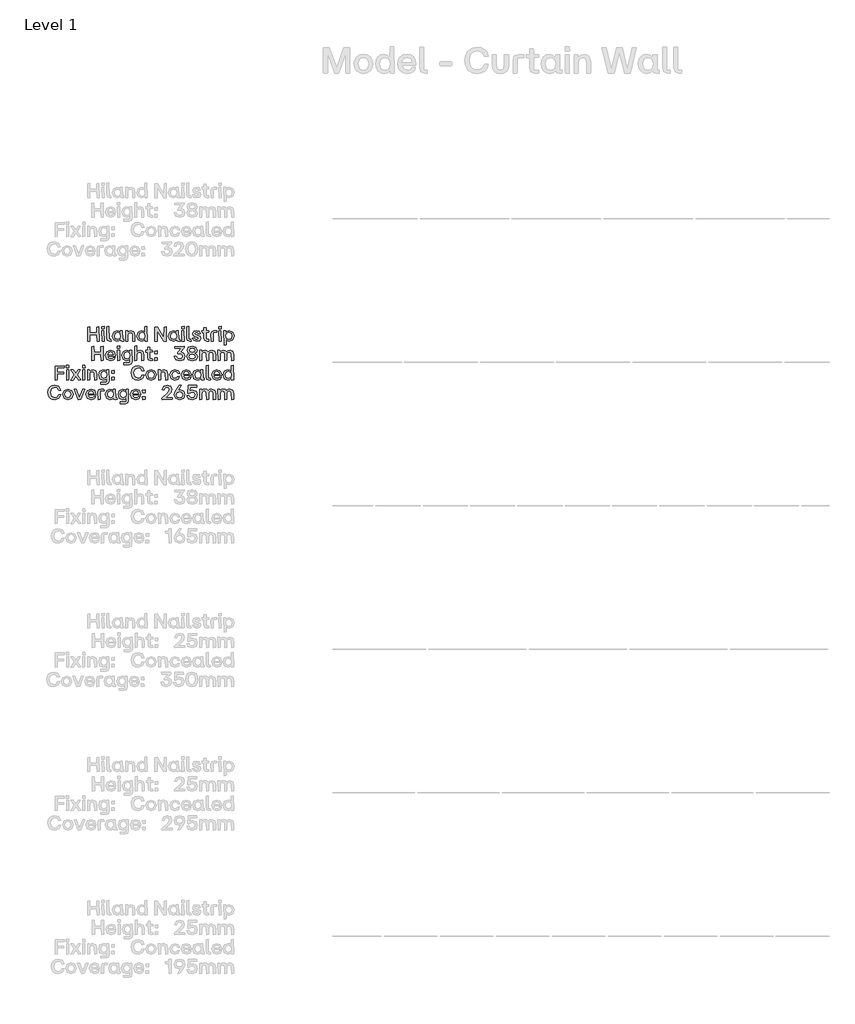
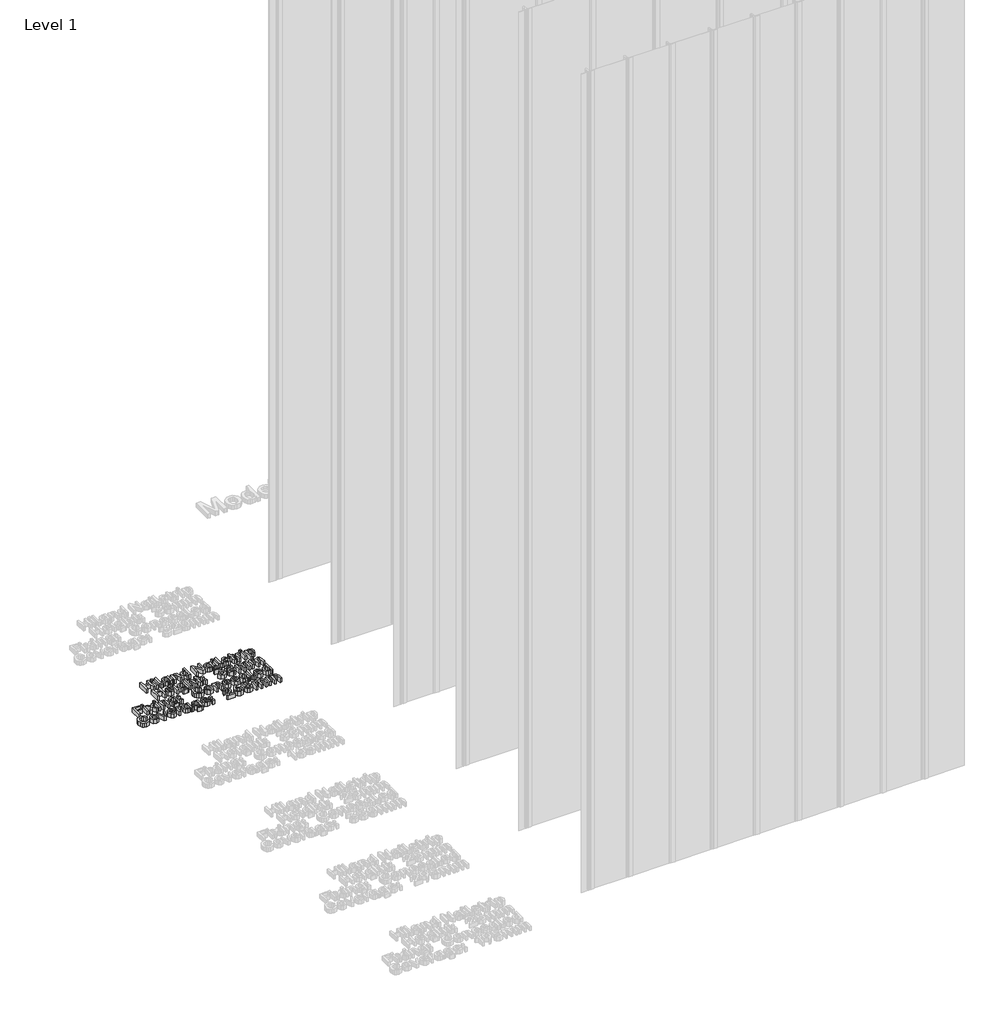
# One storey, part 14 of 64: 1 proxy.
"""IFC4 building model written with IfcOpenShell, lengths in millimetres."""

from ifc_helpers import new_model, si_unit, origin, origin_with_axes, place, context, project, spatial, polyline, outline, extrude, element, save

model = new_model("IFC4")

# Units and contexts
model_context = context("Model", 3, world=origin())
ifc_project = project(units=[si_unit("LENGTHUNIT", "METRE", prefix="MILLI")], contexts=[model_context])

# Site, building, storey
site = spatial("IfcSite", under=ifc_project)
building = spatial("IfcBuilding", under=site)
storey = spatial("IfcBuildingStorey", under=building, Name="Level 1", Elevation=0.0)

# Proxy
placement = place(None, origin())
element("IfcBuildingElementProxy", 1, Name="50mm", ObjectType="50mm", at=placement, inside=storey, context=model_context, shape_type="SweptSolid", body=[
    extrude(outline(polyline([(-779.9316481, -2433.5188866), (-780.6289799, -2411.5808277), (-804.4777279, -2411.5808277), (-804.4777279, -2432.8215548), (-811.9810183, -2433.5188866), (-812.7062434, -2384.2454206), (-805.2168997, -2383.5201955), (-804.4777279, -2404.6075096), (-780.6289799, -2404.6075096), (-780.6289799, -2384.2454206), (-773.1396362, -2383.5201955), (-772.4423044, -2432.8215548), (-779.9316481, -2433.5188866)])), origin_with_axes(), (0.0, 0.0, 1.0), 20.0),
    extrude(outline(polyline([(-762.3449397, -2433.5188866), (-763.0701648, -2397.8154977), (-755.8597538, -2397.1181659), (-755.162422, -2432.8215548), (-762.3449397, -2433.5188866)])), origin_with_axes(), (0.0, 0.0, 1.0), 20.0),
    extrude(outline(polyline([(-763.2793643, -2390.4516737), (-763.6280302, -2382.4044646), (-755.2321552, -2381.6652929), (-754.4929835, -2390.1030078), (-763.2793643, -2390.4516737)])), origin_with_axes(), (0.0, 0.0, 1.0), 20.0),
    extrude(outline(polyline([(-735.7626509, -2433.5188866), (-743.4611942, -2430.8690257), (-746.1110551, -2423.1565359), (-746.1110551, -2382.8228637), (-738.9006441, -2382.083692), (-738.2033123, -2427.2429003), (-731.5368201, -2427.2429003), (-730.8394883, -2432.8215548), (-735.7626509, -2433.5188866)])), origin_with_axes(), (0.0, 0.0, 1.0), 20.0),
    extrude(outline(polyline([(-710.6726522, -2433.9372857), (-722.4436133, -2428.8955767), (-726.8228571, -2415.3882594), (-722.4436133, -2401.7484491), (-710.6726522, -2396.6579269), (-704.0549733, -2398.2617901), (-699.0690509, -2402.6549805), (-698.7482782, -2397.8154977), (-691.5657605, -2397.1181659), (-690.8405354, -2427.2429003), (-686.8936374, -2427.2429003), (-686.1963056, -2432.8215548), (-692.1933592, -2433.5188866), (-696.848049, -2432.2113895), (-698.3996123, -2428.288898), (-703.7551206, -2432.3334225), (-710.6726522, -2433.9372857)]), holes=[polyline([(-718.7617013, -2415.3882594), (-716.0072406, -2424.2792401), (-708.4830304, -2427.521833), (-701.1192064, -2424.2931867), (-698.4693455, -2415.3882594), (-701.1401263, -2406.392679), (-708.4830304, -2403.1152195), (-716.0072406, -2406.392679), (-718.7617013, -2415.3882594)])]), origin_with_axes(), (0.0, 0.0, 1.0), 20.0),
    extrude(outline(polyline([(-679.3345605, -2433.5188866), (-680.0597856, -2397.8154977), (-673.1980405, -2397.1181659), (-672.5007087, -2402.6549805), (-667.3369666, -2398.1571903), (-660.7158011, -2396.6579269), (-651.1553819, -2400.8419178), (-647.8430558, -2413.0870644), (-647.8430558, -2432.8215548), (-655.0674134, -2433.5188866), (-655.7926384, -2413.0870644), (-657.7451675, -2405.7092939), (-663.9165541, -2403.3941522), (-670.1437272, -2405.7441604), (-672.1520428, -2413.0870644), (-672.1520428, -2432.8215548), (-679.3345605, -2433.5188866)])), origin_with_axes(), (0.0, 0.0, 1.0), 20.0),
    extrude(outline(polyline([(-624.9845189, -2433.9372857), (-636.7554799, -2428.8955767), (-641.1347237, -2415.3882594), (-636.7554799, -2401.7484491), (-624.9845189, -2396.6579269), (-618.36684, -2398.2617901), (-613.3809175, -2402.6549805), (-613.0601448, -2382.8228637), (-605.8776272, -2382.083692), (-605.1524021, -2432.8215548), (-612.0141471, -2433.5188866), (-612.7114789, -2428.0099653), (-618.0669873, -2432.3334225), (-624.9845189, -2433.9372857)]), holes=[polyline([(-633.0735679, -2415.3882594), (-630.3191073, -2424.2792401), (-622.794897, -2427.521833), (-615.431073, -2424.2931867), (-612.7812121, -2415.3882594), (-615.451993, -2406.392679), (-622.794897, -2403.1152195), (-630.3191073, -2406.392679), (-633.0735679, -2415.3882594)])]), origin_with_axes(), (0.0, 0.0, 1.0), 20.0),
    extrude(outline(polyline([(-578.1238209, -2433.5188866), (-578.849046, -2384.2454206), (-569.992932, -2383.5201955), (-546.7020494, -2420.7856077), (-546.4231166, -2384.2454206), (-539.2127057, -2383.5201955), (-538.5153739, -2432.8215548), (-547.329648, -2433.5188866), (-570.6205306, -2396.2395278), (-570.8994633, -2432.8215548), (-578.1238209, -2433.5188866)])), origin_with_axes(), (0.0, 0.0, 1.0), 20.0),
    extrude(outline(polyline([(-515.196598, -2433.9372857), (-526.967559, -2428.8955767), (-531.3468028, -2415.3882594), (-526.967559, -2401.7484491), (-515.196598, -2396.6579269), (-508.5789191, -2398.2617901), (-503.5929966, -2402.6549805), (-503.272224, -2397.8154977), (-496.0897063, -2397.1181659), (-495.3644812, -2427.2429003), (-491.4175831, -2427.2429003), (-490.7202513, -2432.8215548), (-496.7173049, -2433.5188866), (-501.3719948, -2432.2113895), (-502.923558, -2428.288898), (-508.2790664, -2432.3334225), (-515.196598, -2433.9372857)]), holes=[polyline([(-523.285647, -2415.3882594), (-520.5311864, -2424.2792401), (-513.0069761, -2427.521833), (-505.6431521, -2424.2931867), (-502.9932912, -2415.3882594), (-505.6640721, -2406.392679), (-513.0069761, -2403.1152195), (-520.5311864, -2406.392679), (-523.285647, -2415.3882594)])]), origin_with_axes(), (0.0, 0.0, 1.0), 20.0),
    extrude(outline(polyline([(-484.7929309, -2390.4516737), (-485.1415968, -2382.4044646), (-476.7457217, -2381.6652929), (-476.00655, -2390.1030078), (-484.7929309, -2390.4516737)])), origin_with_axes(), (0.0, 0.0, 1.0), 20.0),
    extrude(outline(polyline([(-483.8585062, -2433.5188866), (-484.5837313, -2397.8154977), (-477.3733204, -2397.1181659), (-476.6759885, -2432.8215548), (-483.8585062, -2433.5188866)])), origin_with_axes(), (0.0, 0.0, 1.0), 20.0),
    extrude(outline(polyline([(-457.2762175, -2433.5188866), (-464.9747607, -2430.8690257), (-467.6246216, -2423.1565359), (-467.6246216, -2382.8228637), (-460.4142106, -2382.083692), (-459.7168788, -2427.2429003), (-453.0503867, -2427.2429003), (-452.3530549, -2432.8215548), (-457.2762175, -2433.5188866)])), origin_with_axes(), (0.0, 0.0, 1.0), 20.0),
    extrude(outline(polyline([(-432.716191, -2433.9372857), (-443.4481276, -2430.9875721), (-447.9180245, -2422.5289372), (-440.9725996, -2421.7339789), (-437.890393, -2426.5455685), (-432.716191, -2427.8007657), (-428.2532673, -2426.6153017), (-426.579671, -2423.4354686), (-427.7790817, -2420.5764081), (-431.8375529, -2419.0841181), (-436.9280751, -2418.1775867), (-444.6545116, -2414.6351411), (-447.1509595, -2407.5363032), (-443.4899675, -2399.6215871), (-433.6227223, -2396.6579269), (-423.9298101, -2399.4123876), (-419.7039793, -2407.2294772), (-426.6494042, -2408.0244355), (-429.3968915, -2403.8613645), (-433.6227223, -2402.7944469), (-437.8764464, -2403.8962311), (-439.3408432, -2407.0900108), (-438.2948455, -2409.8584181), (-434.4874138, -2411.3716282), (-429.0482256, -2412.3897326), (-421.0358831, -2415.8763917), (-418.7695547, -2423.0170695), (-422.3956801, -2431.1130919), (-432.716191, -2433.9372857)])), origin_with_axes(), (0.0, 0.0, 1.0), 20.0),
    extrude(outline(polyline([(-396.9570155, -2433.5188866), (-404.6695054, -2430.8690257), (-407.3193663, -2423.1565359), (-407.3193663, -2403.3941522), (-413.5256194, -2403.3941522), (-414.2508445, -2397.8154977), (-407.3193663, -2397.1181659), (-407.3193663, -2387.104481), (-400.0950087, -2386.3792559), (-399.3976769, -2397.1181659), (-390.611296, -2397.1181659), (-389.8860709, -2402.6549805), (-399.3976769, -2403.3941522), (-399.3976769, -2427.2429003), (-390.611296, -2427.2429003), (-389.8860709, -2432.8215548), (-396.9570155, -2433.5188866)])), origin_with_axes(), (0.0, 0.0, 1.0), 20.0),
    extrude(outline(polyline([(-382.480407, -2433.5188866), (-383.1777388, -2407.4386768), (-380.5278779, -2399.7471068), (-372.8293347, -2397.1181659), (-362.6761835, -2397.1181659), (-361.9788517, -2403.1152195), (-375.2699961, -2403.8125513), (-375.2699961, -2432.8215548), (-382.480407, -2433.5188866)])), origin_with_axes(), (0.0, 0.0, 1.0), 20.0),
    extrude(outline(polyline([(-354.4337214, -2433.5188866), (-355.1589465, -2397.8154977), (-347.9485356, -2397.1181659), (-347.2512038, -2432.8215548), (-354.4337214, -2433.5188866)])), origin_with_axes(), (0.0, 0.0, 1.0), 20.0),
    extrude(outline(polyline([(-355.3681461, -2390.4516737), (-355.716812, -2382.4044646), (-347.3209369, -2381.6652929), (-346.5817652, -2390.1030078), (-355.3681461, -2390.4516737)])), origin_with_axes(), (0.0, 0.0, 1.0), 20.0),
    extrude(outline(polyline([(-337.4746117, -2447.0750171), (-338.1998368, -2397.8154977), (-331.3380917, -2397.1181659), (-330.6407599, -2402.5852473), (-325.2852516, -2398.2617901), (-318.36772, -2396.6579269), (-306.596759, -2401.7135826), (-302.2175152, -2415.2487931), (-306.596759, -2428.8607101), (-318.36772, -2433.9372857), (-324.9853989, -2432.3334225), (-329.9713214, -2427.9402321), (-330.292094, -2446.3776853), (-337.4746117, -2447.0750171)]), holes=[polyline([(-330.5710268, -2415.2487931), (-327.9002459, -2424.2443735), (-320.5573419, -2427.521833), (-313.0331316, -2424.2443735), (-310.2786709, -2415.2487931), (-313.0331316, -2406.3578124), (-320.5573419, -2403.1152195), (-327.9211659, -2406.3368925), (-330.5710268, -2415.2487931)])]), origin_with_axes(), (0.0, 0.0, 1.0), 20.0),
    extrude(outline(polyline([(-765.6502925, -2501.3705811), (-766.3476243, -2479.4325222), (-790.1963724, -2479.4325222), (-790.1963724, -2500.6732493), (-797.6996627, -2501.3705811), (-798.4248878, -2452.0971151), (-790.9355441, -2451.37189), (-790.1963724, -2472.459204), (-766.3476243, -2472.459204), (-766.3476243, -2452.0971151), (-758.8582806, -2451.37189), (-758.1609488, -2500.6732493), (-765.6502925, -2501.3705811)])), origin_with_axes(), (0.0, 0.0, 1.0), 20.0),
    extrude(outline(polyline([(-732.5130847, -2501.7889802), (-745.9158022, -2496.7472711), (-750.9226446, -2483.2399539), (-745.9367221, -2469.586197), (-732.5130847, -2464.5096214), (-720.2330714, -2469.5164638), (-715.7352812, -2483.1702207), (-715.7352812, -2485.0809099), (-742.7917556, -2485.8200816), (-739.7234956, -2492.8631329), (-732.5130847, -2495.3735275), (-726.7252306, -2494.0974102), (-723.7267038, -2490.520098), (-716.6418126, -2489.9343393), (-721.2999891, -2498.6998002), (-732.5130847, -2501.7889802)]), holes=[polyline([(-742.7220224, -2480.0322275), (-723.5175043, -2480.0322275), (-726.1603919, -2473.3866554), (-732.5130847, -2470.966914), (-739.6049492, -2473.2681089), (-742.7220224, -2480.0322275)])]), origin_with_axes(), (0.0, 0.0, 1.0), 20.0),
    extrude(outline(polyline([(-708.8316963, -2458.3033682), (-709.1803622, -2450.2561591), (-700.7844871, -2449.5169873), (-700.0453154, -2457.9547023), (-708.8316963, -2458.3033682)])), origin_with_axes(), (0.0, 0.0, 1.0), 20.0),
    extrude(outline(polyline([(-707.8972716, -2501.3705811), (-708.6224967, -2465.6671922), (-701.4120858, -2464.9698603), (-700.7147539, -2500.6732493), (-707.8972716, -2501.3705811)])), origin_with_axes(), (0.0, 0.0, 1.0), 20.0),
    extrude(outline(polyline([(-686.2241988, -2514.9267115), (-686.9633706, -2509.348057), (-665.7226435, -2508.6507252), (-665.7226435, -2495.7919266), (-671.0293386, -2500.185117), (-677.6470175, -2501.7889802), (-689.4179785, -2496.7124045), (-693.7972223, -2483.1004875), (-689.4179785, -2469.565277), (-677.6470175, -2464.5096214), (-670.7294859, -2466.1134845), (-665.6529103, -2470.4369418), (-665.3739776, -2465.6671922), (-658.5401258, -2464.9698603), (-657.8149007, -2504.9269733), (-660.3950284, -2512.3675038), (-667.8146389, -2514.9267115), (-686.2241988, -2514.9267115)]), holes=[polyline([(-685.7360666, -2483.1004875), (-682.9816059, -2492.0960679), (-675.4573956, -2495.3735275), (-668.1144916, -2492.0960679), (-665.4437108, -2483.1004875), (-668.0935716, -2474.1885869), (-675.4573956, -2470.966914), (-682.9816059, -2474.2095069), (-685.7360666, -2483.1004875)])]), origin_with_axes(), (0.0, 0.0, 1.0), 20.0),
    extrude(outline(polyline([(-648.0940952, -2501.3705811), (-648.8193203, -2450.6745581), (-641.6089093, -2449.9353864), (-640.9115775, -2470.2277422), (-635.8245419, -2465.9391516), (-629.4753358, -2464.5096214), (-619.9149166, -2468.6936122), (-616.6025905, -2480.9387589), (-616.6025905, -2500.6732493), (-623.8269481, -2501.3705811), (-624.5521731, -2480.9387589), (-626.5047022, -2473.5609883), (-632.6760888, -2471.2458467), (-638.9032619, -2473.5958549), (-640.9115775, -2480.9387589), (-640.9115775, -2500.6732493), (-648.0940952, -2501.3705811)])), origin_with_axes(), (0.0, 0.0, 1.0), 20.0),
    extrude(outline(polyline([(-593.3256545, -2501.3705811), (-601.0381444, -2498.7207202), (-603.6880053, -2491.0082303), (-603.6880053, -2471.2458467), (-609.8942584, -2471.2458467), (-610.6194835, -2465.6671922), (-603.6880053, -2464.9698603), (-603.6880053, -2454.9561755), (-596.4636477, -2454.2309504), (-595.7663158, -2464.9698603), (-586.979935, -2464.9698603), (-586.2547099, -2470.506675), (-595.7663158, -2471.2458467), (-595.7663158, -2495.0945947), (-586.979935, -2495.0945947), (-586.2547099, -2500.6732493), (-593.3256545, -2501.3705811)])), origin_with_axes(), (0.0, 0.0, 1.0), 20.0),
    extrude(outline(polyline([(-578.849046, -2477.7310326), (-579.5463778, -2468.1078535), (-570.0626652, -2467.3686818), (-569.3374401, -2477.0337007), (-578.849046, -2477.7310326)])), origin_with_axes(), (0.0, 0.0, 1.0), 20.0),
    extrude(outline(polyline([(-579.1977119, -2501.0219152), (-579.5463778, -2491.747402), (-570.0626652, -2491.0082303), (-569.3374401, -2500.6732493), (-579.1977119, -2501.0219152)])), origin_with_axes(), (0.0, 0.0, 1.0), 20.0),
    extrude(outline(polyline([(-491.7244091, -2501.7889802), (-505.1201533, -2497.7235357), (-510.9428739, -2485.959548), (-503.57905, -2485.1506431), (-499.415979, -2492.7236666), (-491.7244091, -2494.9551284), (-484.5837313, -2492.5493336), (-481.9338704, -2485.959548), (-484.7022777, -2479.0908296), (-493.3701122, -2476.8942344), (-498.8093003, -2476.8942344), (-499.5066322, -2472.8078699), (-486.1457546, -2458.6520341), (-508.8508785, -2458.3731014), (-509.5761036, -2452.0971151), (-475.8670836, -2451.37189), (-475.1697518, -2456.1834795), (-488.0703904, -2470.0882759), (-477.3454271, -2475.2136647), (-473.7332483, -2485.959548), (-478.5797044, -2497.5352561), (-491.7244091, -2501.7889802)])), origin_with_axes(), (0.0, 0.0, 1.0), 20.0),
    extrude(outline(polyline([(-434.5710936, -2498.1768014), (-448.6153563, -2501.7889802), (-462.6875123, -2498.1768014), (-467.6246216, -2487.8702371), (-465.1490936, -2480.1368273), (-458.4895748, -2475.8063967), (-464.0542827, -2471.1691402), (-465.9091853, -2464.370155), (-461.2231155, -2454.5796163), (-448.6223296, -2450.9534909), (-436.0354904, -2454.5796163), (-431.3633672, -2464.370155), (-433.2182699, -2471.1691402), (-438.7829777, -2475.527464), (-432.1234589, -2480.1368273), (-429.647931, -2487.8702371), (-434.5710936, -2498.1768014)]), holes=[polyline([(-459.4239995, -2486.9358125), (-456.7218387, -2492.9502994), (-448.6153563, -2494.9551284), (-440.5402539, -2492.9502994), (-437.8485531, -2486.9358125), (-440.5402539, -2481.3606446), (-448.6153563, -2479.5022554), (-456.7218387, -2481.3606446), (-459.4239995, -2486.9358125)]), polyline([(-457.6806699, -2465.4579926), (-455.3446083, -2470.8065276), (-448.6153563, -2472.6684036), (-441.8861043, -2470.8065276), (-439.5500427, -2465.4579926), (-441.8861043, -2459.788685), (-448.6153563, -2457.8152359), (-455.3446083, -2459.788685), (-457.6806699, -2465.4579926)])]), origin_with_axes(), (0.0, 0.0, 1.0), 20.0),
    extrude(outline(polyline([(-421.3775756, -2501.3705811), (-422.1028007, -2465.6671922), (-415.2410557, -2464.9698603), (-414.5437239, -2470.506675), (-409.5578014, -2466.0088848), (-403.1074821, -2464.5096214), (-396.8210358, -2466.0088848), (-392.605665, -2470.506675), (-386.7829443, -2466.0646713), (-379.5376668, -2464.5096214), (-370.2631536, -2468.6796656), (-367.0554273, -2480.9387589), (-367.0554273, -2500.6732493), (-374.2658383, -2501.3705811), (-374.9631701, -2480.9387589), (-376.845966, -2473.5609883), (-382.8151263, -2471.2458467), (-388.7215268, -2473.5958549), (-390.6252426, -2480.9387589), (-390.6252426, -2500.6732493), (-397.8356536, -2501.3705811), (-398.5329854, -2480.9387589), (-400.4018347, -2473.5609883), (-406.3152085, -2471.2458467), (-412.2913421, -2473.5958549), (-414.195058, -2480.9387589), (-414.195058, -2500.6732493), (-421.3775756, -2501.3705811)])), origin_with_axes(), (0.0, 0.0, 1.0), 20.0),
    extrude(outline(polyline([(-358.0040603, -2501.3705811), (-358.7292854, -2465.6671922), (-351.8675404, -2464.9698603), (-351.1702086, -2470.506675), (-346.1842861, -2466.0088848), (-339.7339668, -2464.5096214), (-333.4475205, -2466.0088848), (-329.2321497, -2470.506675), (-323.409429, -2466.0646713), (-316.1641515, -2464.5096214), (-306.8896383, -2468.6796656), (-303.681912, -2480.9387589), (-303.681912, -2500.6732493), (-310.8923229, -2501.3705811), (-311.5896548, -2480.9387589), (-313.4724507, -2473.5609883), (-319.441611, -2471.2458467), (-325.3480115, -2473.5958549), (-327.2517273, -2480.9387589), (-327.2517273, -2500.6732493), (-334.4621383, -2501.3705811), (-335.1594701, -2480.9387589), (-337.0283194, -2473.5609883), (-342.9416931, -2471.2458467), (-348.9178268, -2473.5958549), (-350.8215426, -2480.9387589), (-350.8215426, -2500.6732493), (-358.0040603, -2501.3705811)])), origin_with_axes(), (0.0, 0.0, 1.0), 20.0),
    extrude(outline(polyline([(-925.3392781, -2569.2222755), (-926.0645031, -2519.9488095), (-894.4753719, -2519.2235844), (-893.7780401, -2525.527464), (-917.8359877, -2526.2247958), (-917.8359877, -2541.287163), (-895.9118755, -2541.287163), (-895.2145437, -2547.5631494), (-917.8359877, -2548.3023211), (-917.8359877, -2568.5249437), (-925.3392781, -2569.2222755)])), origin_with_axes(), (0.0, 0.0, 1.0), 20.0),
    extrude(outline(polyline([(-885.5216314, -2569.2222755), (-886.2468565, -2533.5188866), (-879.0364456, -2532.8215548), (-878.3391137, -2568.5249437), (-885.5216314, -2569.2222755)])), origin_with_axes(), (0.0, 0.0, 1.0), 20.0),
    extrude(outline(polyline([(-886.4560561, -2526.1550627), (-886.804722, -2518.1078535), (-878.4088469, -2517.3686818), (-877.6696752, -2525.8063967), (-886.4560561, -2526.1550627)])), origin_with_axes(), (0.0, 0.0, 1.0), 20.0),
    extrude(outline(polyline([(-871.4215821, -2569.2222755), (-858.6604099, -2550.7429824), (-870.8637167, -2533.658353), (-862.8722941, -2532.8215548), (-854.0859132, -2544.815662), (-845.8573978, -2533.2399539), (-837.7404555, -2532.8215548), (-849.3440569, -2549.9340775), (-836.303952, -2568.3436374), (-844.2953746, -2569.2222755), (-854.0161801, -2555.7916648), (-863.2906932, -2568.8038764), (-871.4215821, -2569.2222755)])), origin_with_axes(), (0.0, 0.0, 1.0), 20.0),
    extrude(outline(polyline([(-829.2887939, -2569.2222755), (-830.014019, -2533.5188866), (-822.803608, -2532.8215548), (-822.1062762, -2568.5249437), (-829.2887939, -2569.2222755)])), origin_with_axes(), (0.0, 0.0, 1.0), 20.0),
    extrude(outline(polyline([(-830.2232185, -2526.1550627), (-830.5718844, -2518.1078535), (-822.1760094, -2517.3686818), (-821.4368377, -2525.8063967), (-830.2232185, -2526.1550627)])), origin_with_axes(), (0.0, 0.0, 1.0), 20.0),
    extrude(outline(polyline([(-812.3296842, -2569.2222755), (-813.0549093, -2533.5188866), (-806.1931642, -2532.8215548), (-805.4958324, -2538.3583694), (-800.3320903, -2533.8605792), (-793.7109247, -2532.3613158), (-784.1505056, -2536.5453067), (-780.8381794, -2548.7904534), (-780.8381794, -2568.5249437), (-788.062537, -2569.2222755), (-788.7877621, -2548.7904534), (-790.7402912, -2541.4126828), (-796.9116778, -2539.0975411), (-803.1388509, -2541.4475493), (-805.1471665, -2548.7904534), (-805.1471665, -2568.5249437), (-812.3296842, -2569.2222755)])), origin_with_axes(), (0.0, 0.0, 1.0), 20.0),
    extrude(outline(polyline([(-766.5568239, -2582.778406), (-767.2959956, -2577.1997515), (-746.0552685, -2576.5024197), (-746.0552685, -2563.643621), (-751.3619636, -2568.0368114), (-757.9796426, -2569.6406746), (-769.7506036, -2564.564099), (-774.1298474, -2550.952182), (-769.7506036, -2537.4169715), (-757.9796426, -2532.3613158), (-751.0621109, -2533.965179), (-745.9855353, -2538.2886362), (-745.7066026, -2533.5188866), (-738.8727508, -2532.8215548), (-738.1475257, -2572.7786678), (-740.7276535, -2580.2191982), (-748.147264, -2582.778406), (-766.5568239, -2582.778406)]), holes=[polyline([(-766.0686916, -2550.952182), (-763.3142309, -2559.9477624), (-755.7900207, -2563.2252219), (-748.4471166, -2559.9477624), (-745.7763358, -2550.952182), (-748.4261967, -2542.0402814), (-755.7900207, -2538.8186084), (-763.3142309, -2542.0612013), (-766.0686916, -2550.952182)])]), origin_with_axes(), (0.0, 0.0, 1.0), 20.0),
    extrude(outline(polyline([(-728.8032794, -2545.582727), (-729.5006112, -2535.959548), (-720.0168986, -2535.2203762), (-719.2916735, -2544.8853952), (-728.8032794, -2545.582727)])), origin_with_axes(), (0.0, 0.0, 1.0), 20.0),
    extrude(outline(polyline([(-729.1519453, -2568.8736096), (-729.5006112, -2559.5990965), (-720.0168986, -2558.8599248), (-719.2916735, -2568.5249437), (-729.1519453, -2568.8736096)])), origin_with_axes(), (0.0, 0.0, 1.0), 20.0),
    extrude(outline(polyline([(-637.0483593, -2569.6406746), (-647.0550708, -2567.9269817), (-654.7605874, -2562.7859029), (-659.6767766, -2554.7160305), (-661.3155064, -2544.2159567), (-659.66283, -2533.8919591), (-654.7048008, -2525.7924501), (-646.9853376, -2520.5520015), (-637.0483593, -2518.8051853), (-622.8716035, -2523.4215219), (-615.9192053, -2535.7085085), (-623.2411893, -2536.5174134), (-628.4049314, -2528.3272513), (-637.0483593, -2525.8063967), (-648.7077472, -2530.743506), (-652.9475246, -2544.2159567), (-648.7286672, -2557.7999804), (-637.0483593, -2562.6673565), (-628.2340851, -2560.1813685), (-623.5480153, -2552.7234048), (-616.1284048, -2552.0679129), (-622.5926707, -2565.0382846), (-637.0483593, -2569.6406746)])), origin_with_axes(), (0.0, 0.0, 1.0), 20.0),
    extrude(outline(polyline([(-591.693898, -2569.6406746), (-604.8525494, -2564.5152858), (-609.8942584, -2551.0916483), (-604.8386027, -2537.5564378), (-591.693898, -2532.3613158), (-578.4236736, -2537.5564378), (-573.3540713, -2551.0916483), (-578.4236736, -2564.5152858), (-591.693898, -2569.6406746)]), holes=[polyline([(-601.8331026, -2551.0916483), (-599.1344285, -2559.9965756), (-591.693898, -2563.2252219), (-584.1557411, -2559.982629), (-581.4012805, -2551.0916483), (-584.1417945, -2542.0960679), (-591.693898, -2538.8186084), (-599.1344285, -2542.0960679), (-601.8331026, -2551.0916483)])]), origin_with_axes(), (0.0, 0.0, 1.0), 20.0),
    extrude(outline(polyline([(-565.083716, -2569.2222755), (-565.8089411, -2533.5188866), (-558.947196, -2532.8215548), (-558.2498642, -2538.3583694), (-553.0861221, -2533.8605792), (-546.4649565, -2532.3613158), (-536.9045374, -2536.5453067), (-533.5922113, -2548.7904534), (-533.5922113, -2568.5249437), (-540.8165689, -2569.2222755), (-541.5417939, -2548.7904534), (-543.494323, -2541.4126828), (-549.6657096, -2539.0975411), (-555.8928827, -2541.4475493), (-557.9011983, -2548.7904534), (-557.9011983, -2568.5249437), (-565.083716, -2569.2222755)])), origin_with_axes(), (0.0, 0.0, 1.0), 20.0),
    extrude(outline(polyline([(-508.5440525, -2569.6406746), (-521.8770368, -2564.5989656), (-526.8838792, -2551.0916483), (-521.8073036, -2537.5564378), (-508.5440525, -2532.3613158), (-497.4704233, -2535.7991616), (-492.2543813, -2544.8853952), (-499.2695393, -2545.6524602), (-502.8398782, -2540.3527384), (-508.5440525, -2538.8186084), (-516.1031293, -2542.0960679), (-518.8227234, -2551.0916483), (-516.0891827, -2560.0174956), (-508.5440525, -2563.2252219), (-502.6655453, -2561.7608251), (-499.6879384, -2557.0189688), (-492.6030472, -2556.3495302), (-497.2612237, -2566.2028288), (-508.5440525, -2569.6406746)])), origin_with_axes(), (0.0, 0.0, 1.0), 20.0),
    extrude(outline(polyline([(-468.3080068, -2569.6406746), (-481.7107242, -2564.5989656), (-486.7175667, -2551.0916483), (-481.7316442, -2537.4378914), (-468.3080068, -2532.3613158), (-456.0279935, -2537.3681582), (-451.5302033, -2551.0219152), (-451.5302033, -2552.9326043), (-478.5866777, -2553.6717761), (-475.5184177, -2560.7148274), (-468.3080068, -2563.2252219), (-462.5201527, -2561.9491047), (-459.5216259, -2558.3717925), (-452.4367347, -2557.7860338), (-457.0949112, -2566.5514947), (-468.3080068, -2569.6406746)]), holes=[polyline([(-478.5169445, -2547.883922), (-459.3124264, -2547.883922), (-461.9553139, -2541.2383498), (-468.3080068, -2538.8186084), (-475.3998713, -2541.1198034), (-478.5169445, -2547.883922)])]), origin_with_axes(), (0.0, 0.0, 1.0), 20.0),
    extrude(outline(polyline([(-430.4010493, -2569.6406746), (-442.1720104, -2564.5989656), (-446.5512542, -2551.0916483), (-442.1720104, -2537.4518381), (-430.4010493, -2532.3613158), (-423.7833704, -2533.965179), (-418.7974479, -2538.3583694), (-418.4766753, -2533.5188866), (-411.2941576, -2532.8215548), (-410.5689325, -2562.9462892), (-406.6220345, -2562.9462892), (-405.9247026, -2568.5249437), (-411.9217562, -2569.2222755), (-416.5764461, -2567.9147784), (-418.1280094, -2563.9922869), (-423.4835177, -2568.0368114), (-430.4010493, -2569.6406746)]), holes=[polyline([(-438.4900984, -2551.0916483), (-435.7356377, -2559.982629), (-428.2114274, -2563.2252219), (-420.8476035, -2559.9965756), (-418.1977426, -2551.0916483), (-420.8685234, -2542.0960679), (-428.2114274, -2538.8186084), (-435.7356377, -2542.0960679), (-438.4900984, -2551.0916483)])]), origin_with_axes(), (0.0, 0.0, 1.0), 20.0),
    extrude(outline(polyline([(-389.4397785, -2569.2222755), (-397.1383218, -2566.5724146), (-399.7881827, -2558.8599248), (-399.7881827, -2518.5262526), (-392.5777717, -2517.7870809), (-391.8804399, -2562.9462892), (-385.2139477, -2562.9462892), (-384.5166159, -2568.5249437), (-389.4397785, -2569.2222755)])), origin_with_axes(), (0.0, 0.0, 1.0), 20.0),
    extrude(outline(polyline([(-362.0904248, -2569.6406746), (-375.4931422, -2564.5989656), (-380.4999847, -2551.0916483), (-375.5140622, -2537.4378914), (-362.0904248, -2532.3613158), (-349.8104115, -2537.3681582), (-345.3126213, -2551.0219152), (-345.3126213, -2552.9326043), (-372.3690957, -2553.6717761), (-369.3008357, -2560.7148274), (-362.0904248, -2563.2252219), (-356.3025707, -2561.9491047), (-353.3040439, -2558.3717925), (-346.2191527, -2557.7860338), (-350.8773292, -2566.5514947), (-362.0904248, -2569.6406746)]), holes=[polyline([(-372.2993625, -2547.883922), (-353.0948444, -2547.883922), (-355.7377319, -2541.2383498), (-362.0904248, -2538.8186084), (-369.1822893, -2541.1198034), (-372.2993625, -2547.883922)])]), origin_with_axes(), (0.0, 0.0, 1.0), 20.0),
    extrude(outline(polyline([(-324.1834673, -2569.6406746), (-335.9544284, -2564.5989656), (-340.3336722, -2551.0916483), (-335.9544284, -2537.4518381), (-324.1834673, -2532.3613158), (-317.5657884, -2533.965179), (-312.5798659, -2538.3583694), (-312.2590933, -2518.5262526), (-305.0765756, -2517.7870809), (-304.3513505, -2568.5249437), (-311.2130956, -2569.2222755), (-311.9104274, -2563.7133542), (-317.2659357, -2568.0368114), (-324.1834673, -2569.6406746)]), holes=[polyline([(-332.2725164, -2551.0916483), (-329.5180557, -2559.982629), (-321.9938454, -2563.2252219), (-314.6300215, -2559.9965756), (-311.9801606, -2551.0916483), (-314.6509414, -2542.0960679), (-321.9938454, -2538.8186084), (-329.5180557, -2542.0960679), (-332.2725164, -2551.0916483)])]), origin_with_axes(), (0.0, 0.0, 1.0), 20.0),
    extrude(outline(polyline([(-927.1383941, -2637.4923691), (-937.1451057, -2635.7786761), (-944.8506222, -2630.6375973), (-949.7668115, -2622.5677249), (-951.4055413, -2612.0676511), (-949.7528649, -2601.7436536), (-944.7948357, -2593.6441446), (-937.0753725, -2588.403696), (-927.1383941, -2586.6568798), (-912.9616383, -2591.2732164), (-906.0092402, -2603.560203), (-913.3312242, -2604.3691079), (-918.4949663, -2596.1789457), (-927.1383941, -2593.6580912), (-938.7977821, -2598.5952004), (-943.0375595, -2612.0676511), (-938.818702, -2625.6516749), (-927.1383941, -2630.5190509), (-918.32412, -2628.033063), (-913.6380502, -2620.5750992), (-906.2184397, -2619.9196073), (-912.6827056, -2632.8899791), (-927.1383941, -2637.4923691)])), origin_with_axes(), (0.0, 0.0, 1.0), 20.0),
    extrude(outline(polyline([(-881.7839329, -2637.4923691), (-894.9425843, -2632.3669802), (-899.9842933, -2618.9433428), (-894.9286376, -2605.4081323), (-881.7839329, -2600.2130103), (-868.5137085, -2605.4081323), (-863.4441062, -2618.9433428), (-868.5137085, -2632.3669802), (-881.7839329, -2637.4923691)]), holes=[polyline([(-891.9231375, -2618.9433428), (-889.2244634, -2627.8482701), (-881.7839329, -2631.0769164), (-874.245776, -2627.8343234), (-871.4913153, -2618.9433428), (-874.2318294, -2609.9477624), (-881.7839329, -2606.6703029), (-889.2244634, -2609.9477624), (-891.9231375, -2618.9433428)])]), origin_with_axes(), (0.0, 0.0, 1.0), 20.0),
    extrude(outline(polyline([(-845.3413723, -2637.07397), (-859.7343009, -2601.5100474), (-852.4820501, -2600.6732493), (-841.0458083, -2630.5887841), (-830.2092719, -2601.2311147), (-822.8454479, -2600.6732493), (-835.9552861, -2636.5161045), (-845.3413723, -2637.07397)])), origin_with_axes(), (0.0, 0.0, 1.0), 20.0),
    extrude(outline(polyline([(-800.3495236, -2637.4923691), (-813.7522411, -2632.45066), (-818.7590835, -2618.9433428), (-813.773161, -2605.2895859), (-800.3495236, -2600.2130103), (-788.0695104, -2605.2198527), (-783.5717201, -2618.8736096), (-783.5717201, -2620.7842988), (-810.6281946, -2621.5234705), (-807.5599346, -2628.5665218), (-800.3495236, -2631.0769164), (-794.5616695, -2629.8007992), (-791.5631427, -2626.2234869), (-784.4782515, -2625.6377282), (-789.136428, -2634.4031891), (-800.3495236, -2637.4923691)]), holes=[polyline([(-810.5584614, -2615.7356165), (-791.3539432, -2615.7356165), (-793.9968308, -2609.0900443), (-800.3495236, -2606.6703029), (-807.4413882, -2608.9714978), (-810.5584614, -2615.7356165)])]), origin_with_axes(), (0.0, 0.0, 1.0), 20.0),
    extrude(outline(polyline([(-776.1102697, -2637.07397), (-776.8076015, -2610.9937601), (-774.1577406, -2603.3021902), (-766.4591974, -2600.6732493), (-756.3060462, -2600.6732493), (-755.6087144, -2606.6703029), (-768.8998588, -2607.3676347), (-768.8998588, -2636.3766382), (-776.1102697, -2637.07397)])), origin_with_axes(), (0.0, 0.0, 1.0), 20.0),
    extrude(outline(polyline([(-734.7724398, -2637.4923691), (-746.5434008, -2632.45066), (-750.9226446, -2618.9433428), (-746.5434008, -2605.3035325), (-734.7724398, -2600.2130103), (-728.1547608, -2601.8168734), (-723.1688384, -2606.2100639), (-722.8480657, -2601.3705811), (-715.665548, -2600.6732493), (-714.940323, -2630.7979836), (-710.9934249, -2630.7979836), (-710.2960931, -2636.3766382), (-716.2931467, -2637.07397), (-720.9478365, -2635.7664728), (-722.4993998, -2631.8439814), (-727.8549082, -2635.8885059), (-734.7724398, -2637.4923691)]), holes=[polyline([(-742.8614888, -2618.9433428), (-740.1070281, -2627.8343234), (-732.5828179, -2631.0769164), (-725.2189939, -2627.8482701), (-722.569133, -2618.9433428), (-725.2399139, -2609.9477624), (-732.5828179, -2606.6703029), (-740.1070281, -2609.9477624), (-742.8614888, -2618.9433428)])]), origin_with_axes(), (0.0, 0.0, 1.0), 20.0),
    extrude(outline(polyline([(-698.7203849, -2650.6301005), (-699.4595567, -2645.0514459), (-678.2188296, -2644.3541141), (-678.2188296, -2631.4953155), (-683.5255247, -2635.8885059), (-690.1432036, -2637.4923691), (-701.9141647, -2632.4157935), (-706.2934085, -2618.8038764), (-701.9141647, -2605.2686659), (-690.1432036, -2600.2130103), (-683.225672, -2601.8168734), (-678.1490964, -2606.1403307), (-677.8701637, -2601.3705811), (-671.0363119, -2600.6732493), (-670.3110868, -2640.6303622), (-672.8912145, -2648.0708927), (-680.310825, -2650.6301005), (-698.7203849, -2650.6301005)]), holes=[polyline([(-698.2322527, -2618.8038764), (-695.477792, -2627.7994568), (-687.9535817, -2631.0769164), (-680.6106777, -2627.7994568), (-677.9398969, -2618.8038764), (-680.5897578, -2609.8919758), (-687.9535817, -2606.6703029), (-695.477792, -2609.9128958), (-698.2322527, -2618.8038764)])]), origin_with_axes(), (0.0, 0.0, 1.0), 20.0),
    extrude(outline(polyline([(-645.0397819, -2637.4923691), (-658.4424993, -2632.45066), (-663.4493418, -2618.9433428), (-658.4634193, -2605.2895859), (-645.0397819, -2600.2130103), (-632.7597686, -2605.2198527), (-628.2619784, -2618.8736096), (-628.2619784, -2620.7842988), (-655.3184528, -2621.5234705), (-652.2501928, -2628.5665218), (-645.0397819, -2631.0769164), (-639.2519278, -2629.8007992), (-636.253401, -2626.2234869), (-629.1685098, -2625.6377282), (-633.8266863, -2634.4031891), (-645.0397819, -2637.4923691)]), holes=[polyline([(-655.2487196, -2615.7356165), (-636.0442015, -2615.7356165), (-638.687089, -2609.0900443), (-645.0397819, -2606.6703029), (-652.1316464, -2608.9714978), (-655.2487196, -2615.7356165)])]), origin_with_axes(), (0.0, 0.0, 1.0), 20.0),
    extrude(outline(polyline([(-620.800528, -2613.4344215), (-621.4978598, -2603.8112424), (-612.0141471, -2603.0720707), (-611.288922, -2612.7370896), (-620.800528, -2613.4344215)])), origin_with_axes(), (0.0, 0.0, 1.0), 20.0),
    extrude(outline(polyline([(-621.1491939, -2636.7253041), (-621.4978598, -2627.4507909), (-612.0141471, -2626.7116192), (-611.288922, -2636.3766382), (-621.1491939, -2636.7253041)])), origin_with_axes(), (0.0, 0.0, 1.0), 20.0),
    extrude(outline(polyline([(-553.312755, -2637.07397), (-554.0379801, -2632.2902737), (-536.6744179, -2616.2934819), (-529.5267668, -2608.3787658), (-527.5393711, -2601.0916483), (-529.5197935, -2595.4118807), (-535.4610605, -2593.5186248), (-542.3297789, -2595.5966736), (-545.181866, -2602.1655393), (-552.6154232, -2602.8628712), (-548.0269798, -2590.6665377), (-535.4610605, -2586.6568798), (-523.6343129, -2590.5270714), (-519.3108557, -2601.0916483), (-521.9955832, -2610.8682404), (-531.1654965, -2621.2724311), (-540.6213159, -2629.7798792), (-517.8882988, -2630.0588119), (-517.190967, -2636.3766382), (-553.312755, -2637.07397)])), origin_with_axes(), (0.0, 0.0, 1.0), 20.0),
    extrude(outline(polyline([(-478.5169445, -2632.9736589), (-492.4217409, -2637.4923691), (-506.3544306, -2632.9736589), (-511.361273, -2620.3658997), (-509.6179435, -2611.6562253), (-504.0671822, -2601.7889802), (-493.9977108, -2587.5215712), (-485.7273555, -2587.0752789), (-497.0659708, -2604.787507), (-490.0229195, -2603.3510034), (-478.0427589, -2608.0091799), (-473.5240487, -2620.3658997), (-478.5169445, -2632.9736589)]), holes=[polyline([(-503.1606509, -2620.3658997), (-500.3713236, -2627.9737898), (-492.4217409, -2630.6585173), (-484.4930782, -2627.9737898), (-481.7246709, -2620.372873), (-484.4930782, -2612.7719562), (-492.4217409, -2610.0872288), (-500.2876438, -2612.7859029), (-503.1606509, -2620.3658997)])]), origin_with_axes(), (0.0, 0.0, 1.0), 20.0),
    extrude(outline(polyline([(-448.1969572, -2637.4923691), (-461.3974485, -2633.7965104), (-467.2062225, -2623.0854938), (-459.8423985, -2622.2905355), (-455.634001, -2628.7234215), (-448.1969572, -2630.6585173), (-440.7912934, -2627.9737898), (-438.197219, -2620.3658997), (-440.7773467, -2613.0648356), (-448.3364236, -2610.575361), (-458.6987744, -2614.5083125), (-463.5382572, -2614.2293797), (-462.4922594, -2587.800504), (-432.8556573, -2587.0752789), (-432.1304322, -2593.3791585), (-455.8397139, -2594.0764903), (-456.6346722, -2606.740036), (-451.4604701, -2604.5434408), (-445.7562959, -2603.7415092), (-434.2015077, -2608.1695663), (-429.9965969, -2620.3658997), (-434.8081864, -2632.9736589), (-448.1969572, -2637.4923691)])), origin_with_axes(), (0.0, 0.0, 1.0), 20.0),
    extrude(outline(polyline([(-421.3775756, -2637.07397), (-422.1028007, -2601.3705811), (-415.2410557, -2600.6732493), (-414.5437239, -2606.2100639), (-409.5578014, -2601.7122737), (-403.1074821, -2600.2130103), (-396.8210358, -2601.7122737), (-392.605665, -2606.2100639), (-386.7829443, -2601.7680602), (-379.5376668, -2600.2130103), (-370.2631536, -2604.3830545), (-367.0554273, -2616.6421478), (-367.0554273, -2636.3766382), (-374.2658383, -2637.07397), (-374.9631701, -2616.6421478), (-376.845966, -2609.2643772), (-382.8151263, -2606.9492356), (-388.7215268, -2609.2992438), (-390.6252426, -2616.6421478), (-390.6252426, -2636.3766382), (-397.8356536, -2637.07397), (-398.5329854, -2616.6421478), (-400.4018347, -2609.2643772), (-406.3152085, -2606.9492356), (-412.2913421, -2609.2992438), (-414.195058, -2616.6421478), (-414.195058, -2636.3766382), (-421.3775756, -2637.07397)])), origin_with_axes(), (0.0, 0.0, 1.0), 20.0),
    extrude(outline(polyline([(-358.0040603, -2637.07397), (-358.7292854, -2601.3705811), (-351.8675404, -2600.6732493), (-351.1702086, -2606.2100639), (-346.1842861, -2601.7122737), (-339.7339668, -2600.2130103), (-333.4475205, -2601.7122737), (-329.2321497, -2606.2100639), (-323.409429, -2601.7680602), (-316.1641515, -2600.2130103), (-306.8896383, -2604.3830545), (-303.681912, -2616.6421478), (-303.681912, -2636.3766382), (-310.8923229, -2637.07397), (-311.5896548, -2616.6421478), (-313.4724507, -2609.2643772), (-319.441611, -2606.9492356), (-325.3480115, -2609.2992438), (-327.2517273, -2616.6421478), (-327.2517273, -2636.3766382), (-334.4621383, -2637.07397), (-335.1594701, -2616.6421478), (-337.0283194, -2609.2643772), (-342.9416931, -2606.9492356), (-348.9178268, -2609.2992438), (-350.8215426, -2616.6421478), (-350.8215426, -2636.3766382), (-358.0040603, -2637.07397)])), origin_with_axes(), (0.0, 0.0, 1.0), 20.0),
])

save(model, "model.ifc")
